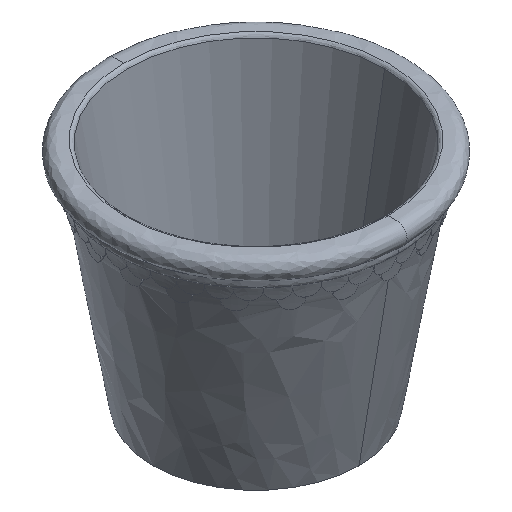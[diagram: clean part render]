
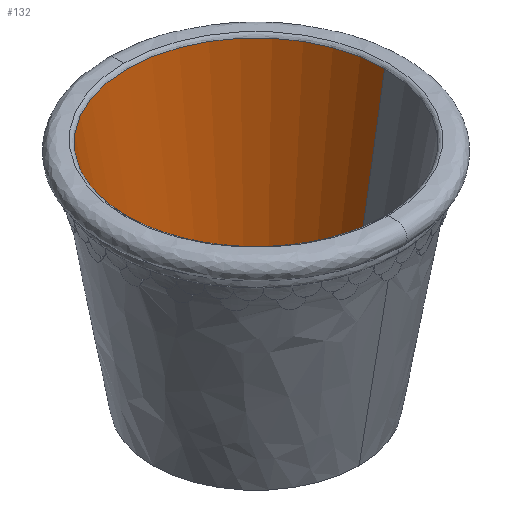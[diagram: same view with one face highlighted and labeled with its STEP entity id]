
A CAD part, isometric view. The second image highlights one B-rep face of the part: STEP entity #132.
In plain terms, the highlighted free-form (B-spline) face has degree [1, 2] with [2, 5] control points.
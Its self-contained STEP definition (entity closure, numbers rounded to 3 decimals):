
#132=ADVANCED_FACE('',(#253),#2083,.T.);
#253=FACE_OUTER_BOUND('',#374,.T.);
#374=EDGE_LOOP('',(#1072,#1073,#1074,#1075));
#1072=ORIENTED_EDGE('',*,*,#1433,.T.);
#1073=ORIENTED_EDGE('',*,*,#1421,.F.);
#1074=ORIENTED_EDGE('',*,*,#1409,.F.);
#1075=ORIENTED_EDGE('',*,*,#1434,.F.);
#1409=EDGE_CURVE('',#2051,#2059,#1831,.T.);
#1421=EDGE_CURVE('',#2059,#2066,#1470,.T.);
#1433=EDGE_CURVE('',#2065,#2066,#1833,.T.);
#1434=EDGE_CURVE('',#2065,#2051,#1478,.T.);
#1470=TRIMMED_CURVE($,#1512,(#83605),(#83606),.T.,.CARTESIAN.);
#1478=TRIMMED_CURVE($,#1520,(#83650),(#83651),.T.,.CARTESIAN.);
#1512=CIRCLE('',#2314,217.151);
#1520=CIRCLE('',#2322,155.54);
#1831=B_SPLINE_CURVE_WITH_KNOTS('',1,(#83571,#83572),.UNSPECIFIED.,.F.,
 .F.,(2,2),(154.584,507.424),.UNSPECIFIED.);
#1833=B_SPLINE_CURVE_WITH_KNOTS('',1,(#83647,#83648),.UNSPECIFIED.,.F.,
 .F.,(2,2),(154.584,507.424),.UNSPECIFIED.);
#2051=VERTEX_POINT('',#57343);
#2059=VERTEX_POINT('',#57351);
#2065=VERTEX_POINT('',#57357);
#2066=VERTEX_POINT('',#57358);
#2083=(
BOUNDED_SURFACE()
B_SPLINE_SURFACE(1,2,((#57115,#57116,#57117,#57118,#57119),(#57120,#57121,
#57122,#57123,#57124)),.UNSPECIFIED.,.F.,.F.,.F.)
B_SPLINE_SURFACE_WITH_KNOTS((2,2),(3,2,3),(154.584,527.944),
(693.458,1040.186,1386.915),.UNSPECIFIED.)
GEOMETRIC_REPRESENTATION_ITEM()
RATIONAL_B_SPLINE_SURFACE(((1.,0.707,1.,0.707,1.),
(1.,0.707,1.,0.707,1.)))
REPRESENTATION_ITEM('')
SURFACE()
);
#2314=AXIS2_PLACEMENT_3D($,#83604,#2396,#2397);
#2322=AXIS2_PLACEMENT_3D($,#83649,#2412,#2413);
#2396=DIRECTION('',(0.,0.,-1.));
#2397=DIRECTION('',(-1.,0.,0.));
#2412=DIRECTION('',(0.,0.,1.));
#2413=DIRECTION('',(1.,0.,0.));
#57115=CARTESIAN_POINT('',(329.54,0.,22.));
#57116=CARTESIAN_POINT('',(329.54,155.54,22.));
#57117=CARTESIAN_POINT('',(174.,155.54,22.));
#57118=CARTESIAN_POINT('',(18.46,155.54,22.));
#57119=CARTESIAN_POINT('',(18.46,0.,22.));
#57120=CARTESIAN_POINT('',(394.734,0.,406.115));
#57121=CARTESIAN_POINT('',(394.734,220.734,406.115));
#57122=CARTESIAN_POINT('',(174.,220.734,406.115));
#57123=CARTESIAN_POINT('',(-46.734,220.734,406.115));
#57124=CARTESIAN_POINT('',(-46.734,0.,406.115));
#57343=CARTESIAN_POINT('',(18.46,0.,22.));
#57351=CARTESIAN_POINT('',(-43.151,0.,385.004));
#57357=CARTESIAN_POINT('',(329.54,0.,22.));
#57358=CARTESIAN_POINT('',(391.151,0.,385.004));
#83571=CARTESIAN_POINT('',(18.46,0.,22.));
#83572=CARTESIAN_POINT('',(-43.151,0.,385.004));
#83604=CARTESIAN_POINT('',(174.,0.,385.004));
#83605=CARTESIAN_POINT('',(-43.151,0.,385.004));
#83606=CARTESIAN_POINT('',(391.151,0.,385.004));
#83647=CARTESIAN_POINT('',(329.54,0.,22.));
#83648=CARTESIAN_POINT('',(391.151,0.,385.004));
#83649=CARTESIAN_POINT('',(174.,0.,22.));
#83650=CARTESIAN_POINT('',(329.54,0.,22.));
#83651=CARTESIAN_POINT('',(18.46,0.,22.));
